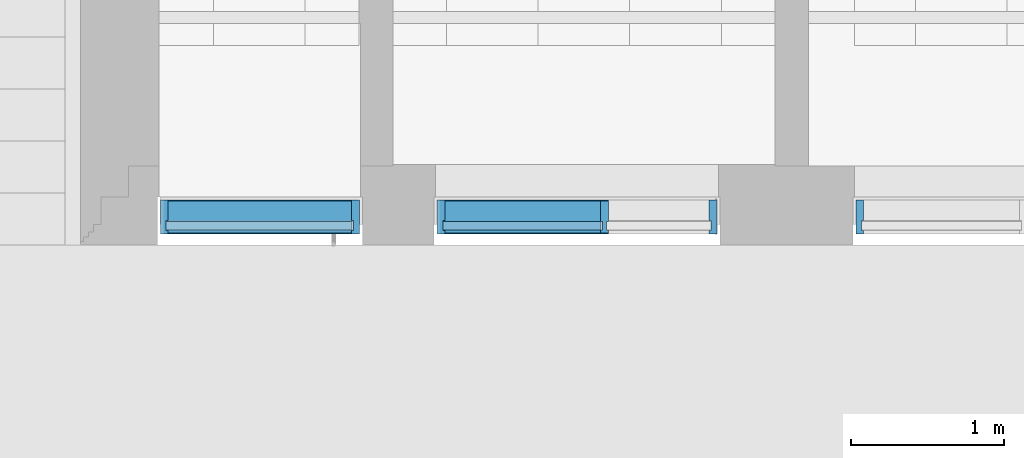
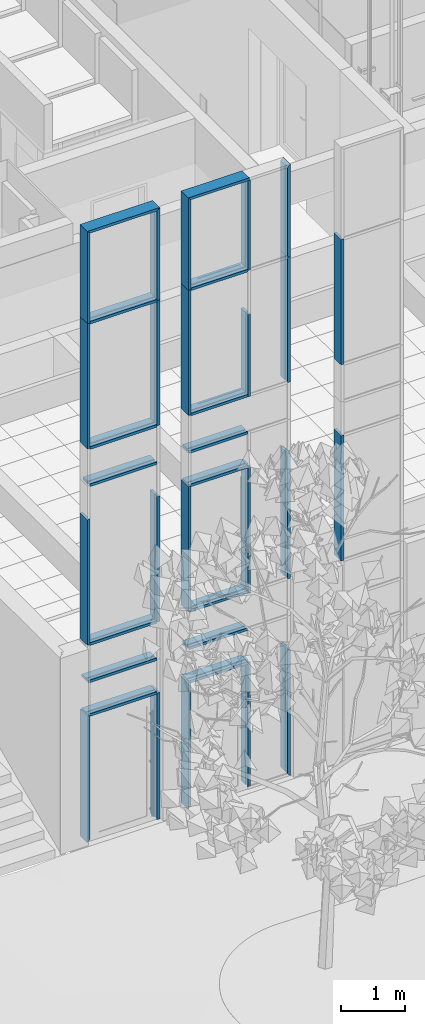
# One storey, part 1 of 246: 37 members, 3 elements without a shape of their own.
"""IFC2X3 building model written with IfcOpenShell, lengths in millimetres."""

from ifc_helpers import new_model, entity, si_unit, converted_unit, derived_unit, money_unit, direction, frame, origin_with_axes, place, context, subcontext, project, spatial, faceted_brep, source, transform, mapped, material, type_object, element, aggregate, save


model = new_model("IFC2X3")

# Units and contexts
model_context = context("Model", 3, precision=0.01, world=origin_with_axes(), true_north=direction((0.0, 1.0)))
body_context = subcontext(model_context, "Body", "Model", "MODEL_VIEW")
ifc_project = project(units=[si_unit("LENGTHUNIT", "METRE", prefix="MILLI"), si_unit("AREAUNIT", "SQUARE_METRE"), si_unit("VOLUMEUNIT", "CUBIC_METRE"), converted_unit("PLANEANGLEUNIT", "DEGREE", entity("IfcPlaneAngleMeasure", 0.0174532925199), si_unit("PLANEANGLEUNIT", "RADIAN"), dimensions=[0, 0, 0, 0, 0, 0, 0]), si_unit("SOLIDANGLEUNIT", "STERADIAN"), money_unit("EUR"), converted_unit("TIMEUNIT", "Year", entity("IfcTimeMeasure", 31556926.0), si_unit("TIMEUNIT", "SECOND"), dimensions=[0, 0, 1, 0, 0, 0, 0]), si_unit("MASSUNIT", "GRAM", prefix="KILO"), si_unit("THERMODYNAMICTEMPERATUREUNIT", "DEGREE_CELSIUS"), si_unit("LUMINOUSINTENSITYUNIT", "LUMEN"), si_unit("ENERGYUNIT", "JOULE", prefix="MEGA"), derived_unit("THERMALCONDUCTANCEUNIT", [(si_unit("POWERUNIT", "WATT"), 1), (si_unit("LENGTHUNIT", "METRE"), -1), (si_unit("THERMODYNAMICTEMPERATUREUNIT", "KELVIN"), -1)]), derived_unit("SPECIFICHEATCAPACITYUNIT", [(si_unit("ENERGYUNIT", "JOULE"), 1), (si_unit("MASSUNIT", "GRAM", prefix="KILO"), -1), (si_unit("THERMODYNAMICTEMPERATUREUNIT", "KELVIN"), -1)]), derived_unit("MASSDENSITYUNIT", [(si_unit("MASSUNIT", "GRAM", prefix="KILO"), 1), (si_unit("VOLUMEUNIT", "CUBIC_METRE"), -1)])], contexts=[model_context])

# Site, building, storey
site_placement = place(None, origin_with_axes())
site = spatial("IfcSite", under=ifc_project, at=site_placement, Name="L.Koidula tn 11b", CompositionType="ELEMENT")
building_placement = place(site_placement, origin_with_axes())
building = spatial("IfcBuilding", under=site, at=building_placement, Name="Rakvere Riigigümnaasium", CompositionType="ELEMENT")
storey_placement = place(building_placement, origin_with_axes())
storey = spatial("IfcBuildingStorey", under=building, at=storey_placement, Name="1.korrus 0,00", CompositionType="ELEMENT", Elevation=0.0)

# Curtain wall, members
curtain_wall_type = type_object("IfcCurtainWallType", Name="Curtain Wall Type", PredefinedType="NOTDEFINED")
curtain_wall_1_placement = place(storey_placement, frame((35950.585925, 5111.45334637, -1.61944652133e-05), z_axis=(0.0, 0.0, 1.0), x_axis=(1.0, 0.0, 0.0)))
curtain_wall_1 = element("IfcCurtainWall", 1, at=curtain_wall_1_placement, inside=storey, type_object=curtain_wall_type, Name="KLF-05-1A")
ifc_material = material(Name="Alumiiniumprofiil (RAL 7021)")
member_type_1 = type_object("IfcMemberType", Name="Boundary Frame 50 x 222", PredefinedType="MULLION")
shared_shape_1 = source(origin_with_axes(), body_context, "Body", "Brep", [
    faceted_brep([(37.0, -32.5, 2375.00000025), (37.0, 32.5, 2375.00000025), (50.0, 32.5, 2375.00000025), (50.0, 53.0, 2375.00000025), (0.0, 53.0, 2375.00000025), (0.0, -169.0, 2375.00000025), (50.0, -169.0, 2375.00000025), (50.0, -32.5, 2375.00000025), (37.0, -32.5, -2.4712543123e-07), (37.0, 32.5, -2.4712543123e-07), (50.0, 32.5, -2.47125653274e-07), (50.0, 53.0, -2.47125653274e-07), (0.0, 53.0, -2.47125653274e-07), (0.0, -169.0, -2.47125653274e-07), (50.0, -169.0, -2.47125653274e-07), (50.0, -32.5, -2.47125653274e-07)], [[[0, 1, 2, 3, 4, 5, 6, 7]], [[1, 0, 8, 9]], [[10, 2, 1, 9]], [[2, 10, 11, 3]], [[12, 4, 3, 11]], [[13, 5, 4, 12]], [[14, 6, 5, 13]], [[15, 7, 6, 14]], [[0, 7, 15, 8]], [[8, 15, 14, 13, 12, 11, 10, 9]]]),
])
member_1_placement = place(curtain_wall_1_placement, frame((859.6355553, 0.0, 3745.0), z_axis=(0.0, 0.0, 1.0), x_axis=(-1.0, 0.0, 0.0)))
member_1 = element("IfcMember", 2, at=member_1_placement, type_object=member_type_1, material=ifc_material, Name="KLF-05-2A-Profiilid", ObjectType="MULLION", context=body_context, shape_type="MappedRepresentation", body=[
    mapped(shared_shape_1, transform((0.0, 0.0, 0.0))),
])
member_2_placement = place(curtain_wall_1_placement, frame((859.635603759, 0.0, 7465.0), z_axis=(3.13708955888e-08, 0.0, 1.0), x_axis=(-1.0, 0.0, 3.13708955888e-08)))
member_2 = element("IfcMember", 3, at=member_2_placement, type_object=member_type_1, material=ifc_material, Name="KLF-05-5A-Profiilid", ObjectType="MULLION", context=body_context, shape_type="MappedRepresentation", body=[
    mapped(shared_shape_1, transform((0.0, 0.0, 0.0))),
])

curtain_wall_2_placement = place(storey_placement, frame((40619.71659, 5111.45334637, -1.61944636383e-05), z_axis=(0.0, 0.0, 1.0), x_axis=(1.0, 0.0, 0.0)))
curtain_wall_2 = element("IfcCurtainWall", 4, at=curtain_wall_2_placement, inside=storey, type_object=curtain_wall_type, Name="KLF-05-1D")
member_3_placement = place(curtain_wall_2_placement, frame((-560.000157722, 0.0, 6120.0), z_axis=(0.0, 0.0, -1.0), x_axis=(1.0, 0.0, 0.0)))
member_3 = element("IfcMember", 5, at=member_3_placement, type_object=member_type_1, material=ifc_material, Name="KLF-05-1C-Profiilid", ObjectType="MULLION", context=body_context, shape_type="MappedRepresentation", body=[
    mapped(shared_shape_1, transform((0.0, 0.0, 0.0))),
])
member_4_placement = place(curtain_wall_2_placement, frame((-560.000157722, 0.0, 9840.0), z_axis=(0.0, 0.0, -1.0), x_axis=(1.0, 0.0, 0.0)))
member_4 = element("IfcMember", 6, at=member_4_placement, type_object=member_type_1, material=ifc_material, Name="KLF-05-8C-Profiilid", ObjectType="MULLION", context=body_context, shape_type="MappedRepresentation", body=[
    mapped(shared_shape_1, transform((0.0, 0.0, 0.0))),
])
aggregate(curtain_wall_2, [member_3, member_4])

curtain_wall_3_placement = place(storey_placement, frame((38273.9956035, 5111.45334637, -8.09717250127e-06), z_axis=(0.0, 0.0, 1.0), x_axis=(1.0, 0.0, 0.0)))
curtain_wall_3 = element("IfcCurtainWall", 7, at=curtain_wall_3_placement, inside=storey, type_object=curtain_wall_type, Name="KLF-05-2A")
member_5_placement = place(curtain_wall_3_placement, frame((876.000206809, 0.0, 7465.0), z_axis=(-1.46874329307e-08, 0.0, 1.0), x_axis=(-1.0, 0.0, -1.46874329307e-08)))
member_5 = element("IfcMember", 8, at=member_5_placement, type_object=member_type_1, material=ifc_material, Name="KLF-05-8A-Profiilid", ObjectType="MULLION", context=body_context, shape_type="MappedRepresentation", body=[
    mapped(shared_shape_1, transform((0.0, 0.0, 0.0))),
])
member_6_placement = place(curtain_wall_3_placement, frame((876.000206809, 0.0, 3745.0), z_axis=(0.0, 0.0, 1.0), x_axis=(-1.0, 0.0, 0.0)))
member_6 = element("IfcMember", 9, at=member_6_placement, type_object=member_type_1, material=ifc_material, Name="KLF-05-5A-Profiilid", ObjectType="MULLION", context=body_context, shape_type="MappedRepresentation", body=[
    mapped(shared_shape_1, transform((0.0, 0.0, 0.0))),
])

# Member
shared_shape_2 = source(origin_with_axes(), body_context, "Body", "Brep", [
    faceted_brep([(-37.0, -32.5, 2375.0), (-50.0, -32.5, 2375.0), (-50.0, -169.0, 2375.0), (0.0, -169.0, 2375.0), (0.0, 53.0, 2375.0), (-50.0, 53.0, 2375.0), (-50.0, 32.5, 2375.0), (-37.0, 32.5, 2375.0), (-37.0, -32.5, 0.0), (-50.0, -32.5, 0.0), (-50.0, -169.0, 0.0), (0.0, -169.0, 0.0), (0.0, 53.0, 0.0), (-50.0, 53.0, 0.0), (-50.0, 32.5, 0.0), (-37.0, 32.5, 0.0)], [[[0, 1, 2, 3, 4, 5, 6, 7]], [[0, 8, 9, 1]], [[9, 10, 2, 1]], [[10, 11, 3, 2]], [[11, 12, 4, 3]], [[12, 13, 5, 4]], [[6, 5, 13, 14]], [[14, 15, 7, 6]], [[7, 15, 8, 0]], [[8, 15, 14, 13, 12, 11, 10, 9]]]),
])
member_7_placement = place(curtain_wall_1_placement, frame((-440.585924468, 0.0, 3745.0), z_axis=(0.0, 0.0, 1.0), x_axis=(-1.0, 0.0, 0.0)))
member_7 = element("IfcMember", 10, at=member_7_placement, type_object=member_type_1, material=ifc_material, Name="KLF-05-2A-Profiilid", ObjectType="MULLION", context=body_context, shape_type="MappedRepresentation", body=[
    mapped(shared_shape_2, transform((0.0, 0.0, 0.0))),
])

member_8_placement = place(curtain_wall_1_placement, frame((-440.585924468, 0.0, 7465.0), z_axis=(0.0, 0.0, 1.0), x_axis=(-1.0, 0.0, 0.0)))
member_8 = element("IfcMember", 11, at=member_8_placement, type_object=member_type_1, material=ifc_material, Name="KLF-05-9A-Profiilid", ObjectType="MULLION", context=body_context, shape_type="MappedRepresentation", body=[
    mapped(shared_shape_2, transform((0.0, 0.0, 0.0))),
])

member_9_placement = place(curtain_wall_3_placement, frame((-954.000087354, 0.0, 3745.0), z_axis=(0.0, 0.0, 1.0), x_axis=(-1.0, 0.0, 0.0)))
member_9 = element("IfcMember", 12, at=member_9_placement, type_object=member_type_1, material=ifc_material, Name="KLF-05-6A-Profiilid", ObjectType="MULLION", context=body_context, shape_type="MappedRepresentation", body=[
    mapped(shared_shape_2, transform((0.0, 0.0, 0.0))),
])

member_10_placement = place(curtain_wall_3_placement, frame((-954.000087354, 0.0, 7465.0), z_axis=(0.0, 0.0, 1.0), x_axis=(-1.0, 0.0, 0.0)))
member_10 = element("IfcMember", 13, at=member_10_placement, type_object=member_type_1, material=ifc_material, Name="KLF-05-3A-Profiilid", ObjectType="MULLION", context=body_context, shape_type="MappedRepresentation", body=[
    mapped(shared_shape_2, transform((0.0, 0.0, 0.0))),
])

member_type_2 = type_object("IfcMemberType", Name="50 x 208", PredefinedType="MULLION")
shared_shape_3 = source(origin_with_axes(), body_context, "Body", "Brep", [
    faceted_brep([(-12.0, -27.0, 1050.00011426), (-25.0, -27.0, 1050.00011426), (-25.0, -160.0, 1050.00011426), (25.0, -160.0, 1050.00011426), (25.0, -27.0, 1050.00011426), (12.0, -27.0, 1050.00011426), (12.0, 27.0, 1050.00011426), (25.0, 27.0, 1050.00011426), (25.0, 48.0, 1050.00011426), (-25.0, 48.0, 1050.00011426), (-25.0, 27.0, 1050.00011426), (-12.0, 27.0, 1050.00011426), (-12.0, -27.0, 0.0), (-25.0, -27.0, 0.0), (-25.0, -160.0, 0.0), (25.0, -160.0, 0.0), (25.0, -27.0, 0.0), (12.0, -27.0, 0.0), (12.0, 27.0, 0.0), (25.0, 27.0, 0.0), (25.0, 48.0, 0.0), (-25.0, 48.0, 0.0), (-25.0, 27.0, 0.0), (-12.0, 27.0, 0.0)], [[[0, 1, 2, 3, 4, 5, 6, 7, 8, 9, 10, 11]], [[1, 0, 12, 13]], [[1, 13, 14, 2]], [[3, 2, 14, 15]], [[4, 3, 15, 16]], [[4, 16, 17, 5]], [[5, 17, 18, 6]], [[7, 6, 18, 19]], [[19, 20, 8, 7]], [[9, 8, 20, 21]], [[22, 10, 9, 21]], [[11, 10, 22, 23]], [[0, 11, 23, 12]], [[23, 22, 21, 20, 19, 18, 17, 16, 15, 14, 13, 12]]]),
])
member_11_placement = place(curtain_wall_3_placement, frame((-934.000201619, 0.0, 2400.0), z_axis=(1.0, 0.0, 0.0), x_axis=(0.0, 0.0, 1.0)))
member_11 = element("IfcMember", 14, at=member_11_placement, type_object=member_type_2, material=ifc_material, Name="KLF-40", ObjectType="MULLION", context=body_context, shape_type="MappedRepresentation", body=[
    mapped(shared_shape_3, transform((0.0, 0.0, 0.0))),
])

member_12_placement = place(curtain_wall_3_placement, frame((-934.000201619, 0.0, 3040.0), z_axis=(1.0, 0.0, 0.0), x_axis=(0.0, 0.0, 1.0)))
member_12 = element("IfcMember", 15, at=member_12_placement, type_object=member_type_2, material=ifc_material, Name="KLF-82", ObjectType="MULLION", context=body_context, shape_type="MappedRepresentation", body=[
    mapped(shared_shape_3, transform((0.0, 0.0, 0.0))),
])

member_13_placement = place(curtain_wall_3_placement, frame((-934.000201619, 0.0, 3745.0), z_axis=(1.0, 0.0, 0.0), x_axis=(0.0, 0.0, 1.0)))
member_13 = element("IfcMember", 16, at=member_13_placement, type_object=member_type_2, material=ifc_material, Name="KLF-84", ObjectType="MULLION", context=body_context, shape_type="MappedRepresentation", body=[
    mapped(shared_shape_3, transform((0.0, 0.0, 0.0))),
])

member_14_placement = place(curtain_wall_3_placement, frame((-934.000201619, 0.0, 6120.0), z_axis=(1.0, 0.0, 0.0), x_axis=(0.0, 0.0, 1.0)))
member_14 = element("IfcMember", 17, at=member_14_placement, type_object=member_type_2, material=ifc_material, Name="KLF-15", ObjectType="MULLION", context=body_context, shape_type="MappedRepresentation", body=[
    mapped(shared_shape_3, transform((0.0, 0.0, 0.0))),
])

member_15_placement = place(curtain_wall_3_placement, frame((-934.000201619, 0.0, 6760.0), z_axis=(1.0, 0.0, 0.0), x_axis=(0.0, 0.0, 1.0)))
member_15 = element("IfcMember", 18, at=member_15_placement, type_object=member_type_2, material=ifc_material, Name="KLF-17", ObjectType="MULLION", context=body_context, shape_type="MappedRepresentation", body=[
    mapped(shared_shape_3, transform((0.0, 0.0, 0.0))),
])

member_16_placement = place(curtain_wall_3_placement, frame((-934.000201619, 0.0, 7465.0), z_axis=(1.0, 0.0, 0.0), x_axis=(0.0, 0.0, 1.0)))
member_16 = element("IfcMember", 19, at=member_16_placement, type_object=member_type_2, material=ifc_material, Name="KLF-50", ObjectType="MULLION", context=body_context, shape_type="MappedRepresentation", body=[
    mapped(shared_shape_3, transform((0.0, 0.0, 0.0))),
])

shared_shape_4 = source(origin_with_axes(), body_context, "Body", "Brep", [
    faceted_brep([(37.0, -32.5, 1712.99983191), (37.0, 32.5, 1712.99983191), (50.0, 32.5, 1699.99983191), (50.0, 53.0, 1699.99983191), (0.0, 53.0, 1749.99983191), (0.0, -169.0, 1749.99983191), (50.0, -169.0, 1699.99983191), (50.0, -32.5, 1699.99983191), (37.0, -32.5, -2.47125875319e-07), (37.0, 32.5, -2.47125875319e-07), (50.0, 32.5, -2.47125764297e-07), (50.0, 53.0, -2.47125764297e-07), (0.0, 53.0, -2.47125764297e-07), (0.0, -169.0, -2.47125764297e-07), (50.0, -169.0, -2.47125764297e-07), (50.0, -32.5, -2.47125764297e-07)], [[[0, 1, 2, 3, 4, 5, 6, 7]], [[1, 0, 8, 9]], [[10, 2, 1, 9]], [[2, 10, 11, 3]], [[12, 4, 3, 11]], [[13, 5, 4, 12]], [[14, 6, 5, 13]], [[15, 7, 6, 14]], [[0, 7, 15, 8]], [[8, 15, 14, 13, 12, 11, 10, 9]]]),
])
member_17_placement = place(curtain_wall_1_placement, frame((859.635678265, 0.0, 9840.0), z_axis=(0.0, 0.0, 1.0), x_axis=(-1.0, 0.0, 0.0)))
member_17 = element("IfcMember", 20, at=member_17_placement, type_object=member_type_1, material=ifc_material, Name="KLF-05-6A-Profiilid", ObjectType="MULLION", context=body_context, shape_type="MappedRepresentation", body=[
    mapped(shared_shape_4, transform((0.0, 0.0, 0.0))),
])

member_18_placement = place(curtain_wall_3_placement, frame((876.000171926, 0.0, 9840.0), z_axis=(5.61334026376e-08, 0.0, 1.0), x_axis=(-1.0, 0.0, 5.61334026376e-08)))
member_18 = element("IfcMember", 21, at=member_18_placement, type_object=member_type_1, material=ifc_material, Name="KLF-05-9A-Profiilid", ObjectType="MULLION", context=body_context, shape_type="MappedRepresentation", body=[
    mapped(shared_shape_4, transform((0.0, 0.0, 0.0))),
])

shared_shape_5 = source(origin_with_axes(), body_context, "Body", "Brep", [
    faceted_brep([(37.0, -32.5, 2400.0), (37.0, 32.5, 2400.0), (50.0, 32.5, 2400.0), (50.0, 53.0, 2400.0), (0.0, 53.0, 2400.0), (0.0, -169.0, 2400.0), (50.0, -169.0, 2400.0), (50.0, -32.5, 2400.0), (37.0, -32.5, 37.0), (37.0, 32.5, 37.0), (50.0, 32.5, 50.0), (50.0, 53.0, 50.0), (0.0, 53.0, 0.0), (0.0, -169.0, 0.0), (50.0, -169.0, 50.0), (50.0, -32.5, 50.0)], [[[0, 1, 2, 3, 4, 5, 6, 7]], [[1, 0, 8, 9]], [[10, 2, 1, 9]], [[2, 10, 11, 3]], [[4, 3, 11, 12]], [[5, 4, 12, 13]], [[6, 5, 13, 14]], [[15, 7, 6, 14]], [[0, 7, 15, 8]], [[8, 15, 14, 13, 12, 11, 10, 9]]]),
])
member_19_placement = place(curtain_wall_3_placement, frame((876.000206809, 0.0, 0.0), z_axis=(0.0, 0.0, 1.0), x_axis=(-1.0, 0.0, 0.0)))
member_19 = element("IfcMember", 22, at=member_19_placement, type_object=member_type_1, material=ifc_material, Name="KLF-05-2A-Profiilid", ObjectType="MULLION", context=body_context, shape_type="MappedRepresentation", body=[
    mapped(shared_shape_5, transform((0.0, 0.0, 0.0))),
])

member_type_3 = type_object("IfcMemberType", Name="Mullion Frame 50 x 222", PredefinedType="MULLION")
shared_shape_6 = source(origin_with_axes(), body_context, "Body", "Brep", [
    faceted_brep([(-12.0, -32.5, 1699.99983191), (-25.0, -32.5, 1699.99983191), (-25.0, -169.0, 1699.99983191), (25.0, -169.0, 1699.99983191), (25.0, -32.5, 1699.99983191), (12.0, -32.5, 1699.99983191), (12.0, 32.5, 1699.99983191), (25.0, 32.5, 1699.99983191), (25.0, 53.0, 1699.99983191), (-25.0, 53.0, 1699.99983191), (-25.0, 32.5, 1699.99983191), (-12.0, 32.5, 1699.99983191), (-12.0, -32.5, 0.0), (-25.0, -32.5, 0.0), (-25.0, -169.0, 0.0), (25.0, -169.0, 0.0), (25.0, -32.5, 0.0), (12.0, -32.5, 0.0), (12.0, 32.5, 0.0), (25.0, 32.5, 0.0), (25.0, 53.0, 0.0), (-25.0, 53.0, 0.0), (-25.0, 32.5, 0.0), (-12.0, 32.5, 0.0)], [[[0, 1, 2, 3, 4, 5, 6, 7, 8, 9, 10, 11]], [[1, 0, 12, 13]], [[1, 13, 14, 2]], [[3, 2, 14, 15]], [[4, 3, 15, 16]], [[4, 16, 17, 5]], [[5, 17, 18, 6]], [[7, 6, 18, 19]], [[19, 20, 8, 7]], [[9, 8, 20, 21]], [[22, 10, 9, 21]], [[11, 10, 22, 23]], [[0, 11, 23, 12]], [[23, 22, 21, 20, 19, 18, 17, 16, 15, 14, 13, 12]]]),
])
member_20_placement = place(curtain_wall_3_placement, frame((140.999912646, 0.0, 9840.0), z_axis=(0.0, 0.0, 1.0), x_axis=(-1.0, 0.0, 0.0)))
member_20 = element("IfcMember", 23, at=member_20_placement, type_object=member_type_3, material=ifc_material, Name="KLF-05-2A-Profiilid", ObjectType="MULLION", context=body_context, shape_type="MappedRepresentation", body=[
    mapped(shared_shape_6, transform((0.0, 0.0, 0.0))),
])

shared_shape_7 = source(origin_with_axes(), body_context, "Body", "Brep", [
    faceted_brep([(-37.0, -32.5, 2400.0), (-50.0, -32.5, 2400.0), (-50.0, -169.0, 2400.0), (0.0, -169.0, 2400.0), (0.0, 53.0, 2400.0), (-50.0, 53.0, 2400.0), (-50.0, 32.5, 2400.0), (-37.0, 32.5, 2400.0), (-37.0, -32.5, 37.0), (-50.0, -32.5, 50.0), (-50.0, -169.0, 50.0), (0.0, -169.0, 0.0), (0.0, 53.0, 0.0), (-50.0, 53.0, 50.0), (-50.0, 32.5, 50.0), (-37.0, 32.5, 37.0)], [[[0, 1, 2, 3, 4, 5, 6, 7]], [[0, 8, 9, 1]], [[9, 10, 2, 1]], [[2, 10, 11, 3]], [[3, 11, 12, 4]], [[4, 12, 13, 5]], [[6, 5, 13, 14]], [[14, 15, 7, 6]], [[7, 15, 8, 0]], [[8, 15, 14, 13, 12, 11, 10, 9]]]),
])
member_21_placement = place(curtain_wall_1_placement, frame((-440.585924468, 0.0, 0.0), z_axis=(0.0, 0.0, 1.0), x_axis=(-1.0, 0.0, 0.0)))
member_21 = element("IfcMember", 24, at=member_21_placement, type_object=member_type_1, material=ifc_material, Name="KLF-05-5A-Profiilid", ObjectType="MULLION", context=body_context, shape_type="MappedRepresentation", body=[
    mapped(shared_shape_7, transform((0.0, 0.0, 0.0))),
])

member_22_placement = place(curtain_wall_3_placement, frame((-954.000087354, 0.0, 0.0), z_axis=(0.0, 0.0, 1.0), x_axis=(-1.0, 0.0, 0.0)))
member_22 = element("IfcMember", 25, at=member_22_placement, type_object=member_type_1, material=ifc_material, Name="KLF-05-9A-Profiilid", ObjectType="MULLION", context=body_context, shape_type="MappedRepresentation", body=[
    mapped(shared_shape_7, transform((0.0, 0.0, 0.0))),
])

shared_shape_8 = source(origin_with_axes(), body_context, "Body", "Brep", [
    faceted_brep([(-37.0, -32.5, 1712.99983191), (-50.0, -32.5, 1699.99983191), (-50.0, -169.0, 1699.99983191), (0.0, -169.0, 1749.99983191), (0.0, 53.0, 1749.99983191), (-50.0, 53.0, 1699.99983191), (-50.0, 32.5, 1699.99983191), (-37.0, 32.5, 1712.99983191), (-37.0, -32.5, 0.0), (-50.0, -32.5, 0.0), (-50.0, -169.0, 0.0), (0.0, -169.0, 0.0), (0.0, 53.0, 0.0), (-50.0, 53.0, 0.0), (-50.0, 32.5, 0.0), (-37.0, 32.5, 0.0)], [[[0, 1, 2, 3, 4, 5, 6, 7]], [[0, 8, 9, 1]], [[9, 10, 2, 1]], [[10, 11, 3, 2]], [[11, 12, 4, 3]], [[12, 13, 5, 4]], [[6, 5, 13, 14]], [[14, 15, 7, 6]], [[7, 15, 8, 0]], [[8, 15, 14, 13, 12, 11, 10, 9]]]),
])
member_23_placement = place(curtain_wall_1_placement, frame((-440.585924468, 0.0, 9840.0), z_axis=(0.0, 0.0, 1.0), x_axis=(-1.0, 0.0, 0.0)))
member_23 = element("IfcMember", 26, at=member_23_placement, type_object=member_type_1, material=ifc_material, Name="KLF-05-8A-Profiilid", ObjectType="MULLION", context=body_context, shape_type="MappedRepresentation", body=[
    mapped(shared_shape_8, transform((0.0, 0.0, 0.0))),
])

member_24_placement = place(curtain_wall_3_placement, frame((-954.000087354, 0.0, 9840.0), z_axis=(0.0, 0.0, 1.0), x_axis=(-1.0, 0.0, 0.0)))
member_24 = element("IfcMember", 27, at=member_24_placement, type_object=member_type_1, material=ifc_material, Name="KLF-05-2A-Profiilid", ObjectType="MULLION", context=body_context, shape_type="MappedRepresentation", body=[
    mapped(shared_shape_8, transform((0.0, 0.0, 0.0))),
])

shared_shape_9 = source(origin_with_axes(), body_context, "Body", "Brep", [
    faceted_brep([(-12.0, -27.0, 2400.00026018), (-25.0, -27.0, 2400.00026018), (-25.0, -160.0, 2400.00026018), (25.0, -160.0, 2400.00026018), (25.0, -27.0, 2400.00026018), (12.0, -27.0, 2400.00026018), (12.0, 27.0, 2400.00026018), (25.0, 27.0, 2400.00026018), (25.0, 48.0, 2400.00026018), (-25.0, 48.0, 2400.00026018), (-25.0, 27.0, 2400.00026018), (-12.0, 27.0, 2400.00026018), (-12.0, -27.0, 50.0), (-25.0, -27.0, 50.0), (-25.0, -160.0, 50.0), (25.0, -160.0, 50.0), (25.0, -27.0, 50.0), (12.0, -27.0, 50.0), (12.0, 27.0, 50.0), (25.0, 27.0, 50.0), (25.0, 48.0, 50.0), (-25.0, 48.0, 50.0), (-25.0, 27.0, 50.0), (-12.0, 27.0, 50.0)], [[[0, 1, 2, 3, 4, 5, 6, 7, 8, 9, 10, 11]], [[1, 0, 12, 13]], [[1, 13, 14, 2]], [[2, 14, 15, 3]], [[4, 3, 15, 16]], [[4, 16, 17, 5]], [[5, 17, 18, 6]], [[7, 6, 18, 19]], [[19, 20, 8, 7]], [[8, 20, 21, 9]], [[22, 10, 9, 21]], [[11, 10, 22, 23]], [[0, 11, 23, 12]], [[23, 22, 21, 20, 19, 18, 17, 16, 15, 14, 13, 12]]]),
])
member_25_placement = place(curtain_wall_3_placement, frame((140.999912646, 0.0, 0.0), z_axis=(0.0, 0.0, 1.0), x_axis=(-1.0, 0.0, 0.0)))
member_25 = element("IfcMember", 28, at=member_25_placement, type_object=member_type_2, material=ifc_material, Name="KLF-24", ObjectType="MULLION", context=body_context, shape_type="MappedRepresentation", body=[
    mapped(shared_shape_9, transform((0.0, 0.0, 0.0))),
])

shared_shape_10 = source(origin_with_axes(), body_context, "Body", "Brep", [
    faceted_brep([(-12.0, -27.0, 1535.0), (-25.0, -27.0, 1535.0), (-25.0, -160.0, 1535.0), (25.0, -160.0, 1535.0), (25.0, -27.0, 1535.0), (12.0, -27.0, 1535.0), (12.0, 27.0, 1535.0), (25.0, 27.0, 1535.0), (25.0, 48.0, 1535.0), (-25.0, 48.0, 1535.0), (-25.0, 27.0, 1535.0), (-12.0, 27.0, 1535.0), (-12.0, -27.0, -25.0), (-25.0, -27.0, -25.0), (-25.0, -160.0, -25.0), (25.0, -160.0, -25.0), (25.0, -27.0, -25.0), (12.0, -27.0, -25.0), (12.0, 27.0, -25.0), (25.0, 27.0, -25.0), (25.0, 48.0, -25.0), (-25.0, 48.0, -25.0), (-25.0, 27.0, -25.0), (-12.0, 27.0, -25.0)], [[[0, 1, 2, 3, 4, 5, 6, 7, 8, 9, 10, 11]], [[1, 0, 12, 13]], [[1, 13, 14, 2]], [[3, 2, 14, 15]], [[4, 3, 15, 16]], [[4, 16, 17, 5]], [[5, 17, 18, 6]], [[7, 6, 18, 19]], [[19, 20, 8, 7]], [[9, 8, 20, 21]], [[22, 10, 9, 21]], [[11, 10, 22, 23]], [[0, 11, 23, 12]], [[23, 22, 21, 20, 19, 18, 17, 16, 15, 14, 13, 12]]]),
])
member_26_placement = place(curtain_wall_3_placement, frame((140.999912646, 0.0, 7465.0), z_axis=(0.0, 0.0, 1.0), x_axis=(-1.0, 0.0, 0.0)))
member_26 = element("IfcMember", 29, at=member_26_placement, type_object=member_type_2, material=ifc_material, Name="KLF-25", ObjectType="MULLION", context=body_context, shape_type="MappedRepresentation", body=[
    mapped(shared_shape_10, transform((0.0, 0.0, 0.0))),
])

member_type_4 = type_object("IfcMemberType", Name="50 x 222", PredefinedType="MULLION")
shared_shape_11 = source(origin_with_axes(), body_context, "Body", "Brep", [
    faceted_brep([(-12.0, -27.0, 2375.0), (-25.0, -27.0, 2375.0), (-25.0, -169.0, 2375.0), (25.0, -169.0, 2375.0), (25.0, -27.0, 2375.0), (12.0, -27.0, 2375.0), (12.0, 27.0, 2375.0), (25.0, 27.0, 2375.0), (25.0, 53.0, 2375.0), (-25.0, 53.0, 2375.0), (-25.0, 27.0, 2375.0), (-12.0, 27.0, 2375.0), (-12.0, -27.0, -25.0), (-25.0, -27.0, -25.0), (-25.0, -169.0, -25.0), (25.0, -169.0, -25.0), (25.0, -27.0, -25.0), (12.0, -27.0, -25.0), (12.0, 27.0, -25.0), (25.0, 27.0, -25.0), (25.0, 53.0, -25.0), (-25.0, 53.0, -25.0), (-25.0, 27.0, -25.0), (-12.0, 27.0, -25.0)], [[[0, 1, 2, 3, 4, 5, 6, 7, 8, 9, 10, 11]], [[1, 0, 12, 13]], [[1, 13, 14, 2]], [[3, 2, 14, 15]], [[4, 3, 15, 16]], [[4, 16, 17, 5]], [[5, 17, 18, 6]], [[7, 6, 18, 19]], [[19, 20, 8, 7]], [[9, 8, 20, 21]], [[22, 10, 9, 21]], [[11, 10, 22, 23]], [[0, 11, 23, 12]], [[23, 22, 21, 20, 19, 18, 17, 16, 15, 14, 13, 12]]]),
])
member_27_placement = place(curtain_wall_3_placement, frame((140.999912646, 0.0, 3745.0), z_axis=(0.0, 0.0, 1.0), x_axis=(-1.0, 0.0, 0.0)))
member_27 = element("IfcMember", 30, at=member_27_placement, type_object=member_type_4, material=ifc_material, Name="KLF-67", ObjectType="MULLION", context=body_context, shape_type="MappedRepresentation", body=[
    mapped(shared_shape_11, transform((0.0, 0.0, 0.0))),
])

member_type_5 = type_object("IfcMemberType", Name="Transom Frame 50 x 222", PredefinedType="MULLION")
shared_shape_12 = source(origin_with_axes(), body_context, "Body", "Brep", [
    faceted_brep([(-12.0, -32.5, 1250.22152721), (-25.0, -32.5, 1250.22152721), (-25.0, -169.0, 1250.22152293), (25.0, -169.0, 1250.22152293), (25.0, -32.5, 1250.22152721), (12.0, -32.5, 1250.22152721), (12.0, 32.5, 1250.22152925), (25.0, 32.5, 1250.22152925), (25.0, 53.0, 1250.22152989), (-25.0, 53.0, 1250.22152989), (-25.0, 32.5, 1250.22152925), (-12.0, 32.5, 1250.22152925), (-12.0, -32.5, 50.0), (-25.0, -32.5, 50.0), (-25.0, -169.0, 50.0), (25.0, -169.0, 50.0), (25.0, -32.5, 50.0), (12.0, -32.5, 50.0), (12.0, 32.5, 50.0), (25.0, 32.5, 50.0), (25.0, 53.0, 50.0), (-25.0, 53.0, 50.0), (-25.0, 32.5, 50.0), (-12.0, 32.5, 50.0)], [[[0, 1, 2, 3, 4, 5, 6, 7, 8, 9, 10, 11]], [[1, 0, 12, 13]], [[1, 13, 14, 2]], [[2, 14, 15, 3]], [[4, 3, 15, 16]], [[4, 16, 17, 5]], [[5, 17, 18, 6]], [[7, 6, 18, 19]], [[19, 20, 8, 7]], [[8, 20, 21, 9]], [[22, 10, 9, 21]], [[11, 10, 22, 23]], [[0, 11, 23, 12]], [[23, 22, 21, 20, 19, 18, 17, 16, 15, 14, 13, 12]]]),
])
member_28_placement = place(curtain_wall_1_placement, frame((-440.585924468, 0.0, 7465.0), z_axis=(1.0, 0.0, 0.0), x_axis=(0.0, 0.0, 1.0)))
member_28 = element("IfcMember", 31, at=member_28_placement, type_object=member_type_5, material=ifc_material, Name="KLF-05-9A-Profiilid", ObjectType="MULLION", context=body_context, shape_type="MappedRepresentation", body=[
    mapped(shared_shape_12, transform((0.0, 0.0, 0.0))),
])

member_29_placement = place(curtain_wall_1_placement, frame((-440.585924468, 0.0, 6760.0), z_axis=(1.0, 0.0, 0.0), x_axis=(0.0, 0.0, 1.0)))
member_29 = element("IfcMember", 32, at=member_29_placement, type_object=member_type_5, material=ifc_material, Name="KLF-05-0A-Profiilid", ObjectType="MULLION", context=body_context, shape_type="MappedRepresentation", body=[
    mapped(shared_shape_12, transform((0.0, 0.0, 0.0))),
])

member_30_placement = place(curtain_wall_1_placement, frame((-440.585924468, 0.0, 9840.0), z_axis=(1.0, 0.0, 0.0), x_axis=(0.0, 0.0, 1.0)))
member_30 = element("IfcMember", 33, at=member_30_placement, type_object=member_type_5, material=ifc_material, Name="KLF-05-8A-Profiilid", ObjectType="MULLION", context=body_context, shape_type="MappedRepresentation", body=[
    mapped(shared_shape_12, transform((0.0, 0.0, 0.0))),
])

shared_shape_13 = source(origin_with_axes(), body_context, "Body", "Brep", [
    faceted_brep([(-12.0, -27.0, 1228.68518613), (-25.0, -27.0, 1228.68518613), (-25.0, -160.0, 1228.68518613), (25.0, -160.0, 1228.68518613), (25.0, -27.0, 1228.68518613), (12.0, -27.0, 1228.68518613), (12.0, 27.0, 1228.68518613), (25.0, 27.0, 1228.68518613), (25.0, 48.0, 1228.68518613), (-25.0, 48.0, 1228.68518613), (-25.0, 27.0, 1228.68518613), (-12.0, 27.0, 1228.68518613), (-12.0, -27.0, 0.0), (-25.0, -27.0, 0.0), (-25.0, -160.0, 0.0), (25.0, -160.0, 0.0), (25.0, -27.0, 0.0), (12.0, -27.0, 0.0), (12.0, 27.0, 0.0), (25.0, 27.0, 0.0), (25.0, 48.0, 0.0), (-25.0, 48.0, 0.0), (-25.0, 27.0, 0.0), (-12.0, 27.0, 0.0)], [[[0, 1, 2, 3, 4, 5, 6, 7, 8, 9, 10, 11]], [[1, 0, 12, 13]], [[1, 13, 14, 2]], [[3, 2, 14, 15]], [[4, 3, 15, 16]], [[4, 16, 17, 5]], [[5, 17, 18, 6]], [[7, 6, 18, 19]], [[19, 20, 8, 7]], [[9, 8, 20, 21]], [[22, 10, 9, 21]], [[11, 10, 22, 23]], [[0, 11, 23, 12]], [[23, 22, 21, 20, 19, 18, 17, 16, 15, 14, 13, 12]]]),
])
member_31_placement = place(curtain_wall_1_placement, frame((-419.049630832, 0.0, 3745.0), z_axis=(1.0, 0.0, 0.0), x_axis=(0.0, 0.0, 1.0)))
member_31 = element("IfcMember", 34, at=member_31_placement, type_object=member_type_2, material=ifc_material, Name="KLF-01-1A-profiilid", ObjectType="MULLION", context=body_context, shape_type="MappedRepresentation", body=[
    mapped(shared_shape_13, transform((0.0, 0.0, 0.0))),
])

member_32_placement = place(curtain_wall_1_placement, frame((-419.049630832, 0.0, 3040.0), z_axis=(1.0, 0.0, 0.0), x_axis=(0.0, 0.0, 1.0)))
member_32 = element("IfcMember", 35, at=member_32_placement, type_object=member_type_2, material=ifc_material, Name="KLF-01-1A-profiilid", ObjectType="MULLION", context=body_context, shape_type="MappedRepresentation", body=[
    mapped(shared_shape_13, transform((0.0, 0.0, 0.0))),
])

member_33_placement = place(curtain_wall_1_placement, frame((-419.049630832, 0.0, 2400.0), z_axis=(1.0, 0.0, 0.0), x_axis=(0.0, 0.0, 1.0)))
member_33 = element("IfcMember", 36, at=member_33_placement, type_object=member_type_2, material=ifc_material, Name="KLF-01-1A-profiilid", ObjectType="MULLION", context=body_context, shape_type="MappedRepresentation", body=[
    mapped(shared_shape_13, transform((0.0, 0.0, 0.0))),
])

shared_shape_14 = source(origin_with_axes(), body_context, "Body", "Brep", [
    faceted_brep([(-12.0, -32.5, 1070.0), (-25.0, -32.5, 1070.0), (-25.0, -169.0, 1070.0), (25.0, -169.0, 1070.0), (25.0, -32.5, 1070.0), (12.0, -32.5, 1070.0), (12.0, 32.5, 1070.0), (25.0, 32.5, 1070.0), (25.0, 53.0, 1070.0), (-25.0, 53.0, 1070.0), (-25.0, 32.5, 1070.0), (-12.0, 32.5, 1070.0), (-12.0, -32.5, 50.0), (-25.0, -32.5, 50.0), (-25.0, -169.0, 50.0), (25.0, -169.0, 50.0), (25.0, -32.5, 50.0), (12.0, -32.5, 50.0), (12.0, 32.5, 50.0), (25.0, 32.5, 50.0), (25.0, 53.0, 50.0), (-25.0, 53.0, 50.0), (-25.0, 32.5, 50.0), (-12.0, 32.5, 50.0)], [[[0, 1, 2, 3, 4, 5, 6, 7, 8, 9, 10, 11]], [[1, 0, 12, 13]], [[1, 13, 14, 2]], [[2, 14, 15, 3]], [[4, 3, 15, 16]], [[4, 16, 17, 5]], [[5, 17, 18, 6]], [[7, 6, 18, 19]], [[19, 20, 8, 7]], [[8, 20, 21, 9]], [[22, 10, 9, 21]], [[11, 10, 22, 23]], [[0, 11, 23, 12]], [[23, 22, 21, 20, 19, 18, 17, 16, 15, 14, 13, 12]]]),
])
member_34_placement = place(curtain_wall_3_placement, frame((-954.000087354, 0.0, 9840.0), z_axis=(1.0, 0.0, 0.0), x_axis=(0.0, 0.0, 1.0)))
member_34 = element("IfcMember", 37, at=member_34_placement, type_object=member_type_5, material=ifc_material, Name="KLF-05-6A-Profiilid", ObjectType="MULLION", context=body_context, shape_type="MappedRepresentation", body=[
    mapped(shared_shape_14, transform((0.0, 0.0, 0.0))),
])

shared_shape_15 = source(origin_with_axes(), body_context, "Body", "Brep", [
    faceted_brep([(37.0, -32.5, 1058.0), (37.0, 32.5, 1058.0), (50.0, 32.5, 1045.0), (50.0, 53.0, 1045.0), (0.0, 53.0, 1095.0), (0.0, -169.0, 1095.0), (50.0, -169.0, 1045.0), (50.0, -32.5, 1045.0), (37.0, -32.5, 0.0), (37.0, 32.5, 0.0), (50.0, 32.5, 0.0), (50.0, 53.0, 0.0), (0.0, 53.0, 0.0), (0.0, -169.0, 0.0), (50.0, -169.0, 0.0), (50.0, -32.5, 0.0)], [[[0, 1, 2, 3, 4, 5, 6, 7]], [[1, 0, 8, 9]], [[10, 2, 1, 9]], [[2, 10, 11, 3]], [[12, 4, 3, 11]], [[13, 5, 4, 12]], [[14, 6, 5, 13]], [[15, 7, 6, 14]], [[0, 7, 15, 8]], [[8, 15, 14, 13, 12, 11, 10, 9]]]),
])
member_35_placement = place(curtain_wall_3_placement, frame((140.999912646, 0.0, 11590.0000411), z_axis=(-1.0, 0.0, 0.0), x_axis=(0.0, 0.0, -1.0)))
member_35 = element("IfcMember", 38, at=member_35_placement, type_object=member_type_1, material=ifc_material, Name="KLF-05-1A-Profiilid", ObjectType="MULLION", context=body_context, shape_type="MappedRepresentation", body=[
    mapped(shared_shape_15, transform((0.0, 0.0, 0.0))),
])

aggregate(curtain_wall_3, [member_11, member_26, member_25, member_12, member_13, member_27, member_14, member_15, member_16, member_34, member_22, member_9, member_10, member_5, member_6, member_19, member_24, member_35, member_20, member_18])

shared_shape_16 = source(origin_with_axes(), body_context, "Body", "Brep", [
    faceted_brep([(37.0, -32.5, 2400.0), (37.0, 32.5, 2400.0), (50.0, 32.5, 2400.0), (50.0, 53.0, 2400.0), (0.0, 53.0, 2400.0), (0.0, -169.0, 2400.0), (50.0, -169.0, 2400.0), (50.0, -32.5, 2400.0), (37.0, -32.5, 0.0), (37.0, 32.5, 0.0), (50.0, 32.5, 0.0), (50.0, 53.0, 0.0), (0.0, 53.0, 0.0), (0.0, -169.0, 0.0), (50.0, -169.0, 0.0), (50.0, -32.5, 0.0)], [[[0, 1, 2, 3, 4, 5, 6, 7]], [[1, 0, 8, 9]], [[10, 2, 1, 9]], [[2, 10, 11, 3]], [[12, 4, 3, 11]], [[13, 5, 4, 12]], [[14, 6, 5, 13]], [[15, 7, 6, 14]], [[0, 7, 15, 8]], [[8, 15, 14, 13, 12, 11, 10, 9]]]),
])
member_36_placement = place(curtain_wall_1_placement, frame((859.6355553, 0.0, 0.0), z_axis=(0.0, 0.0, 1.0), x_axis=(-1.0, 0.0, 0.0)))
member_36 = element("IfcMember", 39, at=member_36_placement, type_object=member_type_1, material=ifc_material, Name="KLF-05-9A-Profiilid", ObjectType="MULLION", context=body_context, shape_type="MappedRepresentation", body=[
    mapped(shared_shape_16, transform((0.0, 0.0, 0.0))),
])

shared_shape_17 = source(origin_with_axes(), body_context, "Body", "Brep", [
    faceted_brep([(37.0, -32.5, 1263.22160273), (37.0, 32.5, 1263.22160273), (50.0, 32.5, 1250.22160273), (50.0, 53.0, 1250.22160273), (0.0, 53.0, 1300.22160273), (0.0, -169.0, 1300.22160273), (50.0, -169.0, 1250.22160273), (50.0, -32.5, 1250.22160273), (37.0, -32.5, 37.0), (37.0, 32.5, 37.0), (50.0, 32.5, 50.0), (50.0, 53.0, 50.0), (0.0, 53.0, 0.0), (0.0, -169.0, 0.0), (50.0, -169.0, 50.0), (50.0, -32.5, 50.0)], [[[0, 1, 2, 3, 4, 5, 6, 7]], [[1, 0, 8, 9]], [[10, 2, 1, 9]], [[2, 10, 11, 3]], [[4, 3, 11, 12]], [[5, 4, 12, 13]], [[6, 5, 13, 14]], [[15, 7, 6, 14]], [[0, 7, 15, 8]], [[8, 15, 14, 13, 12, 11, 10, 9]]]),
])
member_37_placement = place(curtain_wall_1_placement, frame((859.635678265, 0.0, 11590.0000411), z_axis=(-1.0, 0.0, 0.0), x_axis=(0.0, 0.0, -1.0)))
member_37 = element("IfcMember", 40, at=member_37_placement, type_object=member_type_1, material=ifc_material, Name="KLF-05-7A-Profiilid", ObjectType="MULLION", context=body_context, shape_type="MappedRepresentation", body=[
    mapped(shared_shape_17, transform((0.0, 0.0, 0.0))),
])

aggregate(curtain_wall_1, [member_21, member_7, member_28, member_29, member_1, member_31, member_32, member_33, member_36, member_8, member_2, member_30, member_23, member_37, member_17])

save(model, "model.ifc")
